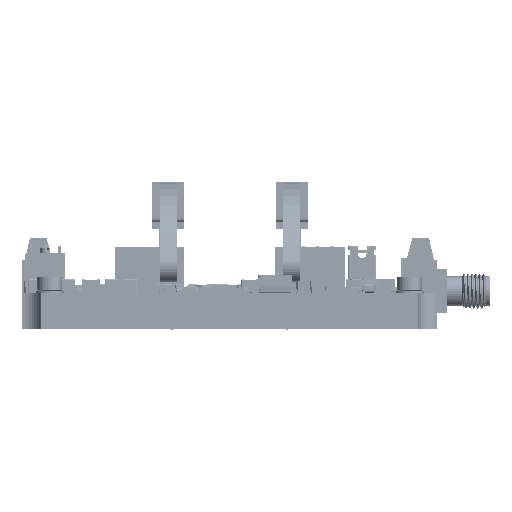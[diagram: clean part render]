
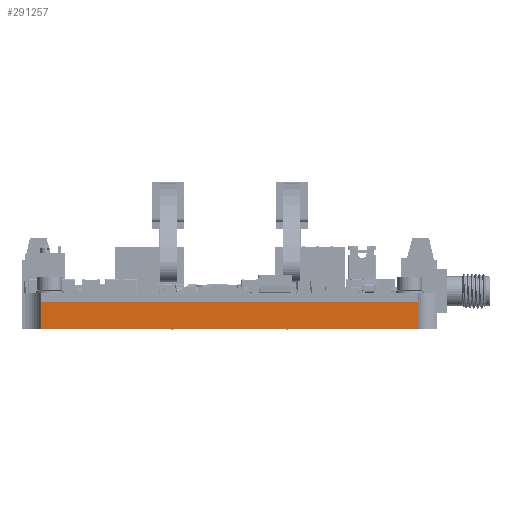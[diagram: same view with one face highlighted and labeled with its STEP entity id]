
A CAD part, left-side view. The second image highlights one B-rep face of the part: STEP entity #291257.
In plain terms, the highlighted planar face has unit normal (-1, 0, 0) as drawn and (0, -1, 0) by its records, which use the part's own axes.
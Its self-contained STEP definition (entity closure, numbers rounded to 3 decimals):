
#1649 = EDGE_LOOP ( 'NONE', ( #30018, #115926, #208753, #209777 ) ) ;
#16726 = CARTESIAN_POINT ( 'NONE',  ( 0., -52.492, 31.44 ) ) ;
#24097 = VECTOR ( 'NONE', #212107, 1000. ) ;
#28615 = VERTEX_POINT ( 'NONE', #135921 ) ;
#28620 = DIRECTION ( 'NONE',  ( 0., 1., 0. ) ) ;
#30018 = ORIENTED_EDGE ( 'NONE', *, *, #271353, .T. ) ;
#33193 = VECTOR ( 'NONE', #105641, 1000. ) ;
#45238 = EDGE_CURVE ( 'NONE', #75850, #48619, #183552, .T. ) ;
#48619 = VERTEX_POINT ( 'NONE', #73972 ) ;
#64319 = VERTEX_POINT ( 'NONE', #264040 ) ;
#73972 = CARTESIAN_POINT ( 'NONE',  ( 4.84, -52.492, 31.44 ) ) ;
#75850 = VERTEX_POINT ( 'NONE', #225368 ) ;
#88115 = LINE ( 'NONE', #294760, #134592 ) ;
#99045 = CARTESIAN_POINT ( 'NONE',  ( 0., -52.492, -36.56 ) ) ;
#105641 = DIRECTION ( 'NONE',  ( 1., 0., 0. ) ) ;
#115926 = ORIENTED_EDGE ( 'NONE', *, *, #184315, .F. ) ;
#134592 = VECTOR ( 'NONE', #270857, 1000. ) ;
#135921 = CARTESIAN_POINT ( 'NONE',  ( 4.84, -52.492, -36.56 ) ) ;
#142561 = PLANE ( 'NONE',  #219984 ) ;
#153526 = DIRECTION ( 'NONE',  ( 0., 0., -1. ) ) ;
#156357 = FACE_OUTER_BOUND ( 'NONE', #1649, .T. ) ;
#171725 = VECTOR ( 'NONE', #153526, 1000. ) ;
#176459 = CARTESIAN_POINT ( 'NONE',  ( 0., -52.492, 34.94 ) ) ;
#183552 = LINE ( 'NONE', #16726, #33193 ) ;
#184315 = EDGE_CURVE ( 'NONE', #48619, #28615, #88115, .T. ) ;
#208753 = ORIENTED_EDGE ( 'NONE', *, *, #45238, .F. ) ;
#209777 = ORIENTED_EDGE ( 'NONE', *, *, #214437, .T. ) ;
#212107 = DIRECTION ( 'NONE',  ( 1., 0., 0. ) ) ;
#214437 = EDGE_CURVE ( 'NONE', #75850, #64319, #278986, .T. ) ;
#219984 = AXIS2_PLACEMENT_3D ( 'NONE', #280359, #28620, #278442 ) ;
#225368 = CARTESIAN_POINT ( 'NONE',  ( 0., -52.492, 31.44 ) ) ;
#264040 = CARTESIAN_POINT ( 'NONE',  ( 0., -52.492, -36.56 ) ) ;
#270857 = DIRECTION ( 'NONE',  ( 0., 0., -1. ) ) ;
#271353 = EDGE_CURVE ( 'NONE', #64319, #28615, #288633, .T. ) ;
#278442 = DIRECTION ( 'NONE',  ( 0., 0., 1. ) ) ;
#278986 = LINE ( 'NONE', #176459, #171725 ) ;
#280359 = CARTESIAN_POINT ( 'NONE',  ( 8., -52.492, 34.94 ) ) ;
#288633 = LINE ( 'NONE', #99045, #24097 ) ;
#291257 = ADVANCED_FACE ( 'NONE', ( #156357 ), #142561, .F. ) ;
#294760 = CARTESIAN_POINT ( 'NONE',  ( 4.84, -52.492, -36.56 ) ) ;
